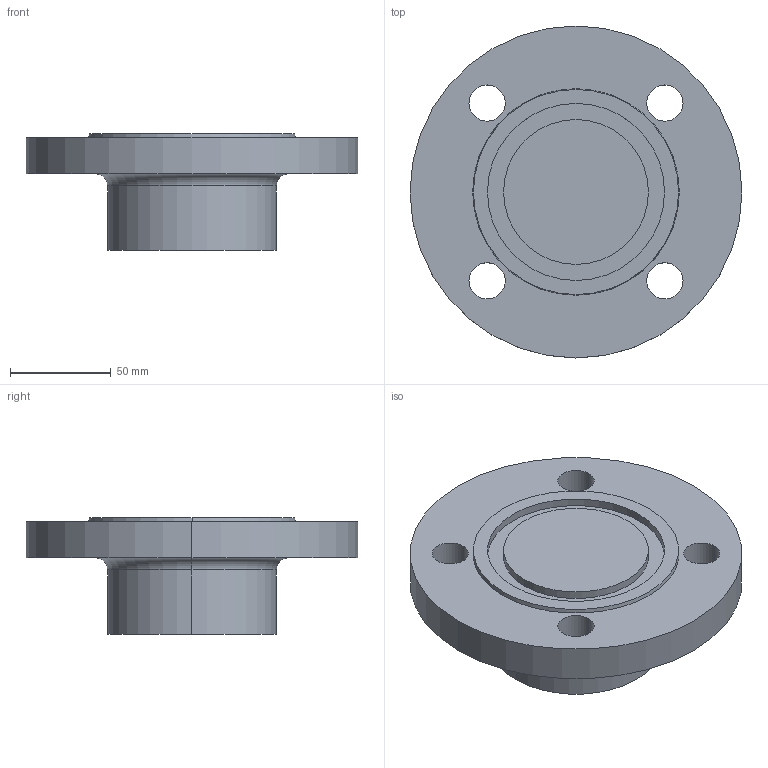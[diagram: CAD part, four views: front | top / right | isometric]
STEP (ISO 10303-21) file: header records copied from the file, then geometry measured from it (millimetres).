
FILE_DESCRIPTION (( 'STEP AP214' ), '1' );
FILE_NAME ('PN40 DN50 Type 21(i) - Type D Face.STEP', '2018-12-30T04:26:45', ( '' ), ( '' ), 'SwSTEP 2.0', 'SolidWorks 2019', '' );
FILE_SCHEMA (( 'AUTOMOTIVE_DESIGN' ));
Length unit declared in the file: millimetre
Products named in the file (1): PN40 DN50 Type 21(i) - Type D Face
Bounding box: 165 x 165 x 58 mm (x, y, z)
Volume: 587667 mm3; surface area: 66045.8 mm2
Topology: 1 solids, 1 shells, 26 faces, 58 edges, 38 vertices
Faces by surface type: cylinder 16, plane 6, torus 2, cone 2
Entity records: 796 total; most frequent: DIRECTION 152, CARTESIAN_POINT 123, ORIENTED_EDGE 116, AXIS2_PLACEMENT_3D 67, EDGE_CURVE 58, CIRCLE 40, VERTEX_POINT 38, EDGE_LOOP 38
